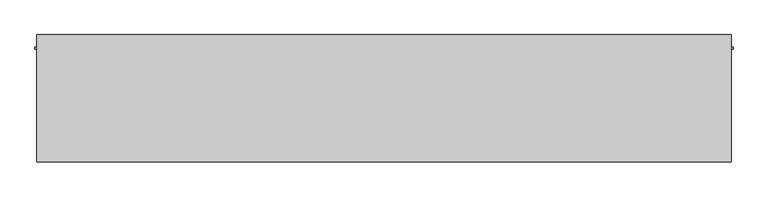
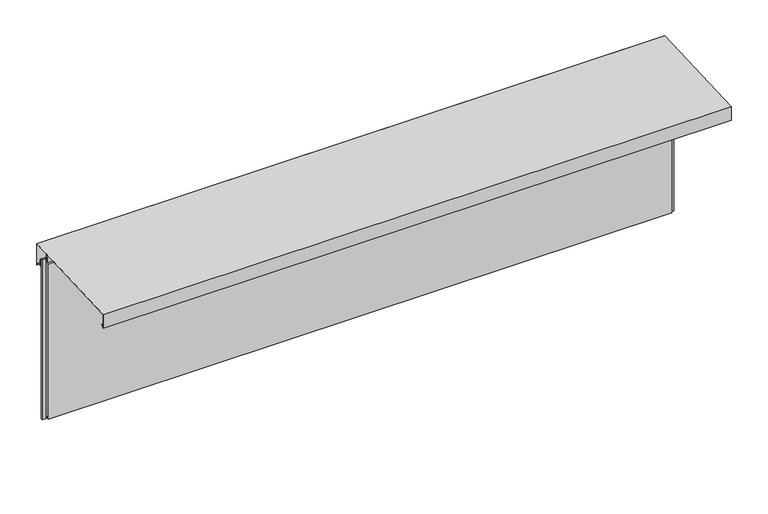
"""IFC4 building model written with IfcOpenShell, lengths in millimetres: plate geometry, Trimo_Qbiss Screen_Normal Panel-HORIZONTAL : HR - B."""

from ifc_helpers import new_model, si_unit, frame, origin, place, context, project, spatial, polyline, outline, extrude, source, transform, mapped, element, save


def plate_6bc7ffaa(model_context):
    return source(origin(), model_context, "Body", "SweptSolid", [
        extrude(outline(polyline([(101.0, 868.0), (77.0, 868.0), (77.0, 868.8), (101.8, 868.8), (101.8, 831.8), (125.3313708, 831.8), (133.2, 823.9313708), (133.2, 822.8), (125.0, 831.0), (101.0, 831.0), (101.0, 868.0)])), frame((-1650.0, 0.0, 0.0), z_axis=(1.0, 0.0, 0.0), x_axis=(0.0, 1.0, 0.0)), (0.0, 0.0, 1.0), 3300.0),
        extrude(outline(polyline([(134.2, 818.9715729), (134.2, 934.1569759), (-469.2, 905.4165497), (-469.2, 833.1070922), (-457.6367532, 844.670339), (-457.0710678, 844.1046536), (-470.0, 831.1757214), (-470.0, 906.1757214), (135.0, 935.0), (135.0, 817.040202), (123.020101, 829.020101), (123.5857864, 829.5857864), (134.2, 818.9715729)])), frame((-1650.0, 0.0, 0.0), z_axis=(1.0, 0.0, 0.0), x_axis=(0.0, 1.0, 0.0)), (0.0, 0.0, 1.0), 3300.0),
        extrude(outline(polyline([(-1640.5, 76.5978162), (-1640.5, 67.8978162), (-1659.5, 67.8978162), (-1659.5, 76.5978162), (-1640.5, 76.5978162)])), frame((0.0, 0.0, -1.0), z_axis=(0.0, 0.0, 1.0), x_axis=(1.0, 0.0, 0.0)), (0.0, 0.0, 1.0), 890.0),
        extrude(outline(polyline([(1640.5, 67.8978162), (1640.5, 76.5978162), (1659.5, 76.5978162), (1659.5, 67.8978162), (1640.5, 67.8978162)])), frame((0.0, 0.0, -1.0), z_axis=(0.0, 0.0, 1.0), x_axis=(1.0, 0.0, 0.0)), (0.0, 0.0, 1.0), 890.0),
        extrude(outline(polyline([(1637.5, 76.0), (1637.5, 71.0), (-1637.5, 71.0), (-1637.5, 76.0), (1637.5, 76.0)])), frame((0.0, 0.0, 868.0), z_axis=(0.0, 0.0, 1.0), x_axis=(1.0, 0.0, 0.0)), (0.0, 0.0, 1.0), 21.0),
        extrude(outline(polyline([(71.0, 867.0), (100.0, 867.0), (100.0, 0.0), (72.0, 0.0), (72.0, 15.5), (62.0, 15.5), (62.0, 7.0), (50.0, 7.0), (50.0, 867.0), (63.0, 867.0), (63.0, 904.5), (71.0, 904.5), (71.0, 867.0)])), frame((-1637.5, 0.0, 0.0), z_axis=(1.0, 0.0, 0.0), x_axis=(0.0, 1.0, 0.0)), (0.0, 0.0, 1.0), 3275.0),
    ])


if __name__ == "__main__":
    model = new_model("IFC4")
    model_context = context("Model", 3, world=origin())
    ifc_project = project(units=[si_unit("LENGTHUNIT", "METRE", prefix="MILLI")], contexts=[model_context])
    site = spatial("IfcSite", under=ifc_project)
    building = spatial("IfcBuilding", under=site)
    placement = place(None, origin())
    plate_shape = plate_6bc7ffaa(model_context)
    element("IfcPlate", 1, ObjectType="Trimo_Qbiss Screen_Normal Panel-HORIZONTAL : HR - B", at=placement, inside=building, context=model_context, shape_type="MappedRepresentation", body=[
        mapped(plate_shape, transform((0.0, 0.0, 0.0), x_axis=(1.0, 0.0, 0.0), y_axis=(0.0, 1.0, 0.0), z_axis=(0.0, 0.0, 1.0))),
    ])
    save(model, "model.ifc")
